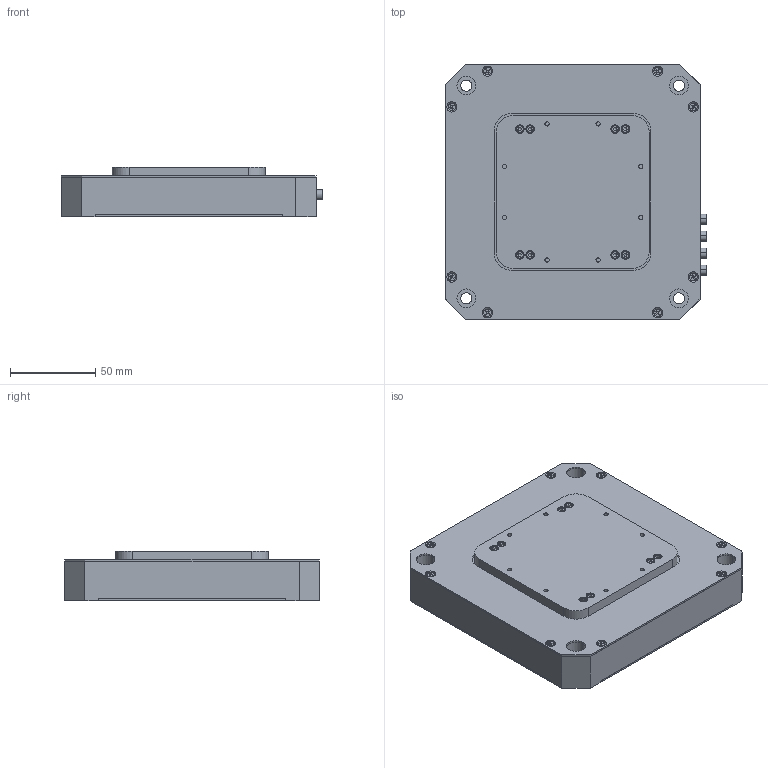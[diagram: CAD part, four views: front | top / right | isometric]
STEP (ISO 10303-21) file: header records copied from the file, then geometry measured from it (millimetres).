
FILE_DESCRIPTION (( 'STEP AP214' ), '1' );
FILE_NAME ('P65.XY200Z50S-B1装配体外形尺寸图-2024.05.14.STEP', '2024-05-14T06:10:10', ( 'User' ), ( 'china' ), 'SwSTEP 2.0', 'SolidWorks 2016', '' );
FILE_SCHEMA (( 'AUTOMOTIVE_DESIGN' ));
Length unit declared in the file: millimetre
Products named in the file (1): P65.XY200Z50S-B1装配体外形尺寸图-2024.05.14
Bounding box: 154 x 150 x 29 mm (x, y, z)
Surface area: 73007.7 mm2 (no closed solid volume)
Topology: 0 solids, 36 shells, 549 faces, 1728 edges, 1176 vertices
Faces by surface type: plane 307, cylinder 178, cone 48, torus 16
Entity records: 25101 total; most frequent: CARTESIAN_POINT 3438, DIRECTION 3396, ORIENTED_EDGE 2918, EDGE_CURVE 1712, VERTEX_POINT 1176, AXIS2_PLACEMENT_3D 1134, LINE 1128, VECTOR 1128
